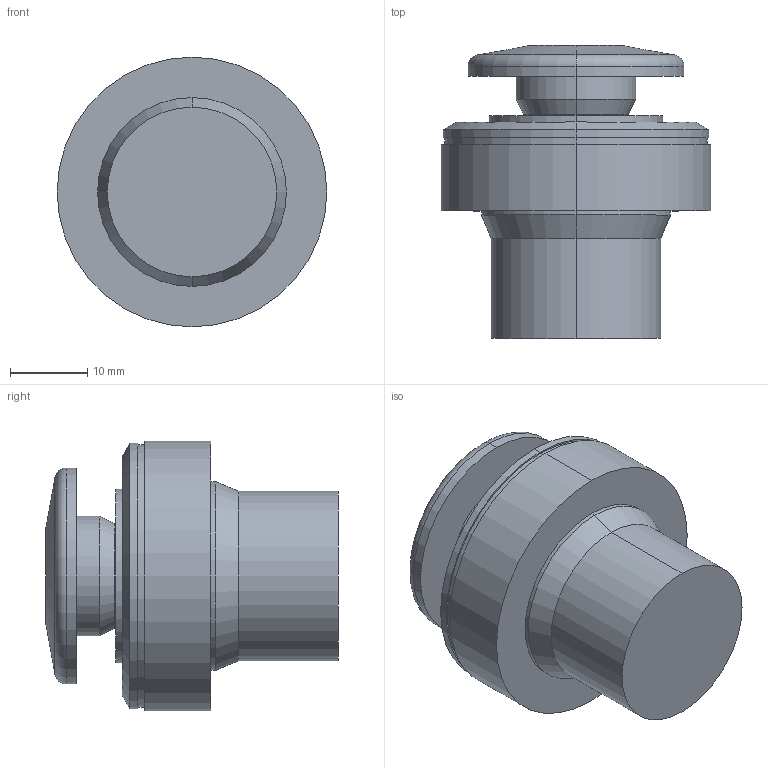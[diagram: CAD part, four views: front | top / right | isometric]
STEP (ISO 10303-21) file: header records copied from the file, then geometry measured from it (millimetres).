
FILE_DESCRIPTION (( 'STEP AP203' ), '1' );
FILE_NAME ('B5P3.STEP', '2013-06-18T09:55:02', ( 'edv' ), ( '' ), 'SwSTEP 2.0', 'SolidWorks 2013', '' );
FILE_SCHEMA (( 'CONFIG_CONTROL_DESIGN' ));
Length unit declared in the file: millimetre
Products named in the file (1): B5P3
Bounding box: 34.99 x 38 x 34.99 mm (x, y, z)
Volume: 20616.1 mm3; surface area: 5637.4 mm2
Topology: 1 solids, 1 shells, 38 faces, 74 edges, 44 vertices
Faces by surface type: cylinder 18, cone 8, plane 8, torus 4
Entity records: 1055 total; most frequent: DIRECTION 200, CARTESIAN_POINT 157, ORIENTED_EDGE 148, AXIS2_PLACEMENT_3D 87, EDGE_CURVE 74, CIRCLE 48, VERTEX_POINT 44, EDGE_LOOP 44
